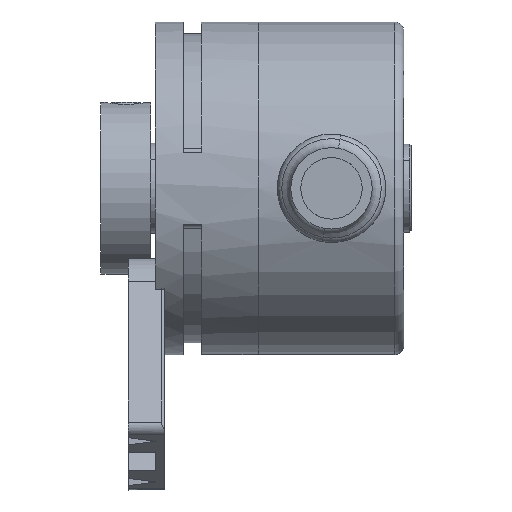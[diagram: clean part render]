
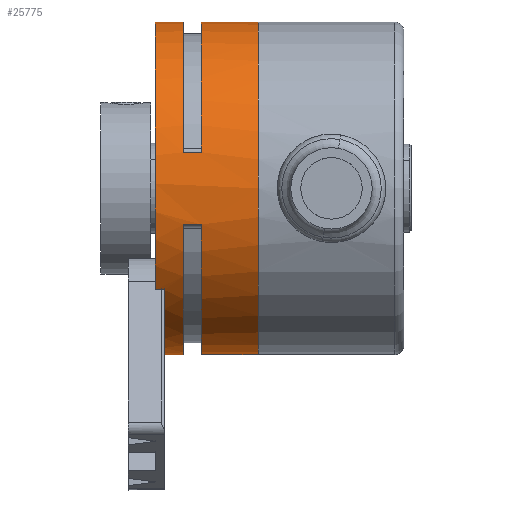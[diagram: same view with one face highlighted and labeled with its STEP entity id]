
A CAD part, front view. The second image highlights one B-rep face of the part: STEP entity #25775.
In plain terms, the highlighted cylindrical face has radius 18.4 mm (diameter 36.8 mm), a partial arc.
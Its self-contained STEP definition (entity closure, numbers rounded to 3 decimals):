
#153 = CARTESIAN_POINT ( 'NONE',  ( 81.16, -32.069, -11.237 ) ) ;
#154 = DIRECTION ( 'NONE',  ( 0., 0., 1. ) ) ;
#155 = DIRECTION ( 'NONE',  ( -1., 0., 0. ) ) ;
#156 = CARTESIAN_POINT ( 'NONE',  ( 81.16, -17.498, 0. ) ) ;
#157 = AXIS2_PLACEMENT_3D ( 'NONE', #156, #155, #154 ) ;
#158 = CIRCLE ( 'NONE', #157, 18.4 ) ;
#159 = DIRECTION ( 'NONE',  ( 0., 0., -1. ) ) ;
#160 = DIRECTION ( 'NONE',  ( 1., 0., 0. ) ) ;
#161 = CARTESIAN_POINT ( 'NONE',  ( 84.26, -17.498, 0. ) ) ;
#162 = AXIS2_PLACEMENT_3D ( 'NONE', #161, #160, #159 ) ;
#163 = CIRCLE ( 'NONE', #162, 18.4 ) ;
#203 = DIRECTION ( 'NONE',  ( -1., 0., 0. ) ) ;
#204 = VECTOR ( 'NONE', #203, 1000. ) ;
#205 = CARTESIAN_POINT ( 'NONE',  ( 82.16, -19.944, -18.237 ) ) ;
#206 = LINE ( 'NONE', #205, #204 ) ;
#207 = CARTESIAN_POINT ( 'NONE',  ( 82.16, -19.944, -18.237 ) ) ;
#208 = DIRECTION ( 'NONE',  ( 0., 0., 1. ) ) ;
#209 = DIRECTION ( 'NONE',  ( -1., 0., 0. ) ) ;
#210 = CARTESIAN_POINT ( 'NONE',  ( 82.16, -17.498, 0. ) ) ;
#211 = AXIS2_PLACEMENT_3D ( 'NONE', #210, #209, #208 ) ;
#212 = CIRCLE ( 'NONE', #211, 18.4 ) ;
#213 = CARTESIAN_POINT ( 'NONE',  ( 82.16, -32.069, -11.237 ) ) ;
#214 = DIRECTION ( 'NONE',  ( -1., 0., 0. ) ) ;
#215 = VECTOR ( 'NONE', #214, 1000. ) ;
#216 = CARTESIAN_POINT ( 'NONE',  ( 82.16, -32.069, -11.237 ) ) ;
#217 = LINE ( 'NONE', #216, #215 ) ;
#236 = CARTESIAN_POINT ( 'NONE',  ( 84.26, -35.458, 4. ) ) ;
#237 = DIRECTION ( 'NONE',  ( -1., 0., 0. ) ) ;
#238 = VECTOR ( 'NONE', #237, 1000. ) ;
#239 = CARTESIAN_POINT ( 'NONE',  ( 86.26, -35.458, 4. ) ) ;
#245 = LINE ( 'NONE', #239, #238 ) ;
#281 = CARTESIAN_POINT ( 'NONE',  ( 81.16, -17.498, 0. ) ) ;
#282 = CARTESIAN_POINT ( 'NONE',  ( 81.16, -19.944, -18.237 ) ) ;
#283 = DIRECTION ( 'NONE',  ( 0., 0., 1. ) ) ;
#284 = DIRECTION ( 'NONE',  ( -1., 0., 0. ) ) ;
#285 = CARTESIAN_POINT ( 'NONE',  ( 92.56, -17.498, 0. ) ) ;
#286 = AXIS2_PLACEMENT_3D ( 'NONE', #285, #284, #283 ) ;
#287 = CIRCLE ( 'NONE', #286, 18.4 ) ;
#324 = DIRECTION ( 'NONE',  ( 0., 0., -1. ) ) ;
#325 = DIRECTION ( 'NONE',  ( 1., 0., 0. ) ) ;
#326 = CARTESIAN_POINT ( 'NONE',  ( 86.26, -17.498, 0. ) ) ;
#327 = AXIS2_PLACEMENT_3D ( 'NONE', #326, #325, #324 ) ;
#328 = CIRCLE ( 'NONE', #327, 18.4 ) ;
#330 = CARTESIAN_POINT ( 'NONE',  ( 86.26, -35.458, -4. ) ) ;
#331 = DIRECTION ( 'NONE',  ( -1., 0., 0. ) ) ;
#332 = VECTOR ( 'NONE', #331, 1000. ) ;
#333 = CARTESIAN_POINT ( 'NONE',  ( 86.26, -35.458, -4. ) ) ;
#334 = LINE ( 'NONE', #333, #332 ) ;
#335 = CARTESIAN_POINT ( 'NONE',  ( 84.26, -35.458, -4. ) ) ;
#336 = DIRECTION ( 'NONE',  ( 0., 0., -1. ) ) ;
#337 = DIRECTION ( 'NONE',  ( 1., 0., 0. ) ) ;
#338 = CARTESIAN_POINT ( 'NONE',  ( 84.26, -17.498, 0. ) ) ;
#339 = AXIS2_PLACEMENT_3D ( 'NONE', #338, #337, #336 ) ;
#340 = CIRCLE ( 'NONE', #339, 18.4 ) ;
#341 = DIRECTION ( 'NONE',  ( 0., 0., 1. ) ) ;
#342 = DIRECTION ( 'NONE',  ( -1., 0., 0. ) ) ;
#343 = AXIS2_PLACEMENT_3D ( 'NONE', #281, #342, #341 ) ;
#344 = CIRCLE ( 'NONE', #343, 18.4 ) ;
#438 = FACE_OUTER_BOUND ( 'NONE', #25776, .T. ) ;
#473 = CARTESIAN_POINT ( 'NONE',  ( 86.26, -35.458, 4. ) ) ;
#474 = DIRECTION ( 'NONE',  ( 0., 0., -1. ) ) ;
#475 = DIRECTION ( 'NONE',  ( 1., 0., 0. ) ) ;
#476 = CARTESIAN_POINT ( 'NONE',  ( 86.26, -17.498, 0. ) ) ;
#477 = AXIS2_PLACEMENT_3D ( 'NONE', #476, #475, #474 ) ;
#479 = DIRECTION ( 'NONE',  ( 0., 0., 1. ) ) ;
#480 = DIRECTION ( 'NONE',  ( -1., 0., 0. ) ) ;
#481 = AXIS2_PLACEMENT_3D ( 'NONE', #484, #480, #479 ) ;
#482 = CYLINDRICAL_SURFACE ( 'NONE', #481, 18.4 ) ;
#483 = CIRCLE ( 'NONE', #477, 18.4 ) ;
#484 = CARTESIAN_POINT ( 'NONE',  ( 76.76, -17.498, 0. ) ) ;
#24438 = VERTEX_POINT ( 'NONE', #33939 ) ;
#24440 = EDGE_CURVE ( 'NONE', #24441, #24438, #33938, .T. ) ;
#24441 = VERTEX_POINT ( 'NONE', #33934 ) ;
#24447 = VERTEX_POINT ( 'NONE', #33918 ) ;
#24449 = VERTEX_POINT ( 'NONE', #33972 ) ;
#24450 = EDGE_CURVE ( 'NONE', #24449, #24451, #33971, .T. ) ;
#24451 = VERTEX_POINT ( 'NONE', #33967 ) ;
#24466 = VERTEX_POINT ( 'NONE', #34006 ) ;
#24468 = EDGE_CURVE ( 'NONE', #24466, #24469, #34005, .T. ) ;
#24469 = VERTEX_POINT ( 'NONE', #34001 ) ;
#24471 = VERTEX_POINT ( 'NONE', #34000 ) ;
#24508 = EDGE_CURVE ( 'NONE', #24471, #24447, #34112, .T. ) ;
#25666 = ORIENTED_EDGE ( 'NONE', *, *, #25667, .F. ) ;
#25667 = EDGE_CURVE ( 'NONE', #24441, #25700, #163, .T. ) ;
#25668 = ORIENTED_EDGE ( 'NONE', *, *, #24440, .T. ) ;
#25669 = ORIENTED_EDGE ( 'NONE', *, *, #25670, .F. ) ;
#25670 = EDGE_CURVE ( 'NONE', #25671, #24438, #158, .T. ) ;
#25671 = VERTEX_POINT ( 'NONE', #153 ) ;
#25672 = ORIENTED_EDGE ( 'NONE', *, *, #25673, .F. ) ;
#25673 = EDGE_CURVE ( 'NONE', #25674, #25671, #217, .T. ) ;
#25674 = VERTEX_POINT ( 'NONE', #213 ) ;
#25675 = ORIENTED_EDGE ( 'NONE', *, *, #25676, .F. ) ;
#25676 = EDGE_CURVE ( 'NONE', #25677, #25674, #212, .T. ) ;
#25677 = VERTEX_POINT ( 'NONE', #207 ) ;
#25678 = ORIENTED_EDGE ( 'NONE', *, *, #25679, .T. ) ;
#25679 = EDGE_CURVE ( 'NONE', #25677, #25727, #206, .T. ) ;
#25698 = ORIENTED_EDGE ( 'NONE', *, *, #25699, .T. ) ;
#25699 = EDGE_CURVE ( 'NONE', #25782, #25700, #245, .T. ) ;
#25700 = VERTEX_POINT ( 'NONE', #236 ) ;
#25725 = EDGE_CURVE ( 'NONE', #24449, #24471, #287, .T. ) ;
#25727 = VERTEX_POINT ( 'NONE', #282 ) ;
#25728 = ORIENTED_EDGE ( 'NONE', *, *, #25729, .F. ) ;
#25729 = EDGE_CURVE ( 'NONE', #24469, #25727, #344, .T. ) ;
#25730 = ORIENTED_EDGE ( 'NONE', *, *, #24468, .F. ) ;
#25731 = ORIENTED_EDGE ( 'NONE', *, *, #25732, .F. ) ;
#25732 = EDGE_CURVE ( 'NONE', #25733, #24466, #340, .T. ) ;
#25733 = VERTEX_POINT ( 'NONE', #335 ) ;
#25734 = ORIENTED_EDGE ( 'NONE', *, *, #25735, .F. ) ;
#25735 = EDGE_CURVE ( 'NONE', #25736, #25733, #334, .T. ) ;
#25736 = VERTEX_POINT ( 'NONE', #330 ) ;
#25737 = ORIENTED_EDGE ( 'NONE', *, *, #25738, .T. ) ;
#25738 = EDGE_CURVE ( 'NONE', #25736, #24451, #328, .T. ) ;
#25775 = ADVANCED_FACE ( 'NONE', ( #438 ), #482, .T. ) ;
#25776 = EDGE_LOOP ( 'NONE', ( #25777, #25778, #25779, #25780, #25698, #25666, #25668, #25669, #25672, #25675, #25678, #25728, #25730, #25731, #25734, #25737 ) ) ;
#25777 = ORIENTED_EDGE ( 'NONE', *, *, #24450, .F. ) ;
#25778 = ORIENTED_EDGE ( 'NONE', *, *, #25725, .T. ) ;
#25779 = ORIENTED_EDGE ( 'NONE', *, *, #24508, .T. ) ;
#25780 = ORIENTED_EDGE ( 'NONE', *, *, #25781, .T. ) ;
#25781 = EDGE_CURVE ( 'NONE', #24447, #25782, #483, .T. ) ;
#25782 = VERTEX_POINT ( 'NONE', #473 ) ;
#33918 = CARTESIAN_POINT ( 'NONE',  ( 86.26, -17.498, 18.4 ) ) ;
#33934 = CARTESIAN_POINT ( 'NONE',  ( 84.26, -17.498, 18.4 ) ) ;
#33935 = DIRECTION ( 'NONE',  ( -1., 0., 0. ) ) ;
#33936 = VECTOR ( 'NONE', #33935, 1000. ) ;
#33937 = CARTESIAN_POINT ( 'NONE',  ( 76.76, -17.498, 18.4 ) ) ;
#33938 = LINE ( 'NONE', #33937, #33936 ) ;
#33939 = CARTESIAN_POINT ( 'NONE',  ( 81.16, -17.498, 18.4 ) ) ;
#33967 = CARTESIAN_POINT ( 'NONE',  ( 86.26, -17.498, -18.4 ) ) ;
#33968 = DIRECTION ( 'NONE',  ( -1., 0., 0. ) ) ;
#33969 = VECTOR ( 'NONE', #33968, 1000. ) ;
#33970 = CARTESIAN_POINT ( 'NONE',  ( 76.76, -17.498, -18.4 ) ) ;
#33971 = LINE ( 'NONE', #33970, #33969 ) ;
#33972 = CARTESIAN_POINT ( 'NONE',  ( 92.56, -17.498, -18.4 ) ) ;
#34000 = CARTESIAN_POINT ( 'NONE',  ( 92.56, -17.498, 18.4 ) ) ;
#34001 = CARTESIAN_POINT ( 'NONE',  ( 81.16, -17.498, -18.4 ) ) ;
#34002 = DIRECTION ( 'NONE',  ( -1., 0., 0. ) ) ;
#34003 = VECTOR ( 'NONE', #34002, 1000. ) ;
#34004 = CARTESIAN_POINT ( 'NONE',  ( 76.76, -17.498, -18.4 ) ) ;
#34005 = LINE ( 'NONE', #34004, #34003 ) ;
#34006 = CARTESIAN_POINT ( 'NONE',  ( 84.26, -17.498, -18.4 ) ) ;
#34109 = DIRECTION ( 'NONE',  ( -1., 0., 0. ) ) ;
#34110 = VECTOR ( 'NONE', #34109, 1000. ) ;
#34111 = CARTESIAN_POINT ( 'NONE',  ( 76.76, -17.498, 18.4 ) ) ;
#34112 = LINE ( 'NONE', #34111, #34110 ) ;
